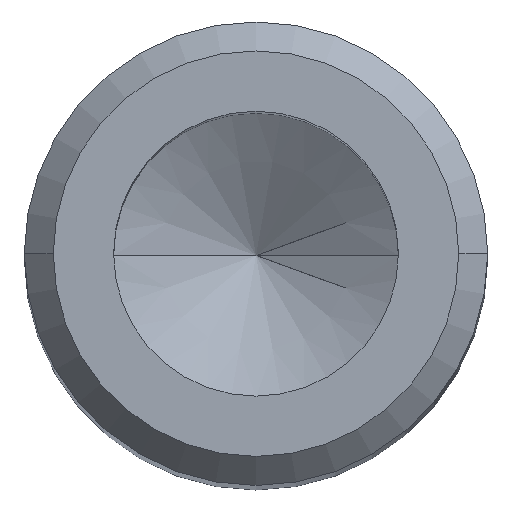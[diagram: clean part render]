
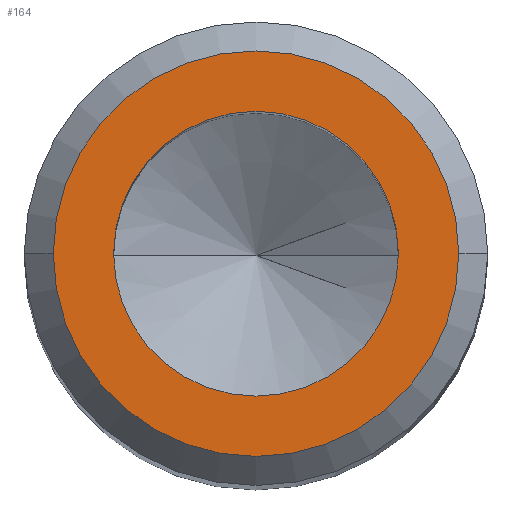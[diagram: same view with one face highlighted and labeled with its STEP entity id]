
A CAD part, top view. The second image highlights one B-rep face of the part: STEP entity #164.
In plain terms, the highlighted planar face has unit normal (0, 0, 1).
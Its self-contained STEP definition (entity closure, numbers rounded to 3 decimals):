
#3 = CARTESIAN_POINT ( 'NONE',  ( 0., 0., 46. ) ) ;
#5 = DIRECTION ( 'NONE',  ( 0., 0., 1. ) ) ;
#13 = AXIS2_PLACEMENT_3D ( 'NONE', #212, #55, #66 ) ;
#14 = EDGE_LOOP ( 'NONE', ( #464, #335 ) ) ;
#22 = CARTESIAN_POINT ( 'NONE',  ( 0., 0., 46. ) ) ;
#30 = DIRECTION ( 'NONE',  ( 0., 0., 1. ) ) ;
#39 = EDGE_CURVE ( 'NONE', #162, #52, #88, .T. ) ;
#46 = CIRCLE ( 'NONE', #502, 3.5 ) ;
#52 = VERTEX_POINT ( 'NONE', #382 ) ;
#55 = DIRECTION ( 'NONE',  ( 0., 0., 1. ) ) ;
#64 = CARTESIAN_POINT ( 'NONE',  ( -3.5, 0., 46. ) ) ;
#66 = DIRECTION ( 'NONE',  ( 1., 0., 0. ) ) ;
#82 = AXIS2_PLACEMENT_3D ( 'NONE', #3, #5, #93 ) ;
#88 = CIRCLE ( 'NONE', #82, 2.458 ) ;
#93 = DIRECTION ( 'NONE',  ( 1., 0., 0. ) ) ;
#126 = AXIS2_PLACEMENT_3D ( 'NONE', #22, #174, #362 ) ;
#146 = EDGE_LOOP ( 'NONE', ( #254, #376 ) ) ;
#162 = VERTEX_POINT ( 'NONE', #352 ) ;
#164 = ADVANCED_FACE ( 'NONE', ( #405, #199 ), #507, .T. ) ;
#168 = VERTEX_POINT ( 'NONE', #64 ) ;
#171 = DIRECTION ( 'NONE',  ( 1., 0., 0. ) ) ;
#172 = CARTESIAN_POINT ( 'NONE',  ( 0., 0., 46. ) ) ;
#174 = DIRECTION ( 'NONE',  ( 0., 0., 1. ) ) ;
#175 = CIRCLE ( 'NONE', #126, 3.5 ) ;
#199 = FACE_BOUND ( 'NONE', #14, .T. ) ;
#209 = DIRECTION ( 'NONE',  ( 0., 0., 1. ) ) ;
#212 = CARTESIAN_POINT ( 'NONE',  ( 0., 0., 46. ) ) ;
#238 = CARTESIAN_POINT ( 'NONE',  ( 0., 0., 46. ) ) ;
#241 = EDGE_CURVE ( 'NONE', #168, #480, #175, .T. ) ;
#254 = ORIENTED_EDGE ( 'NONE', *, *, #241, .T. ) ;
#260 = AXIS2_PLACEMENT_3D ( 'NONE', #238, #209, #171 ) ;
#262 = EDGE_CURVE ( 'NONE', #480, #168, #46, .T. ) ;
#335 = ORIENTED_EDGE ( 'NONE', *, *, #418, .F. ) ;
#352 = CARTESIAN_POINT ( 'NONE',  ( 2.458, 0., 46. ) ) ;
#362 = DIRECTION ( 'NONE',  ( 1., 0., 0. ) ) ;
#376 = ORIENTED_EDGE ( 'NONE', *, *, #262, .T. ) ;
#382 = CARTESIAN_POINT ( 'NONE',  ( -2.458, 0., 46. ) ) ;
#387 = CARTESIAN_POINT ( 'NONE',  ( 3.5, 0., 46. ) ) ;
#405 = FACE_OUTER_BOUND ( 'NONE', #146, .T. ) ;
#408 = DIRECTION ( 'NONE',  ( 1., 0., 0. ) ) ;
#412 = CIRCLE ( 'NONE', #13, 2.458 ) ;
#418 = EDGE_CURVE ( 'NONE', #52, #162, #412, .T. ) ;
#464 = ORIENTED_EDGE ( 'NONE', *, *, #39, .F. ) ;
#480 = VERTEX_POINT ( 'NONE', #387 ) ;
#502 = AXIS2_PLACEMENT_3D ( 'NONE', #172, #30, #408 ) ;
#507 = PLANE ( 'NONE',  #260 ) ;
